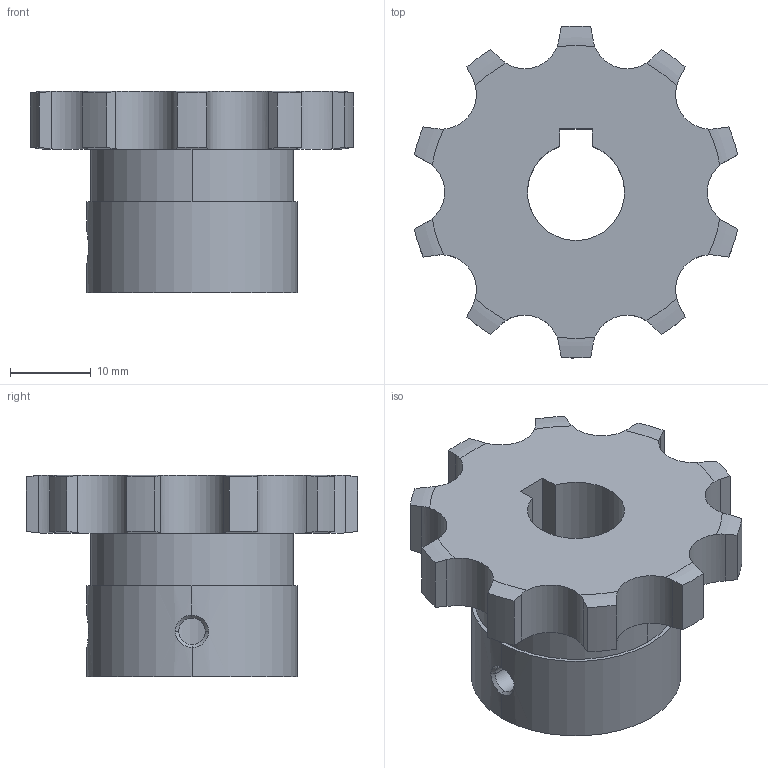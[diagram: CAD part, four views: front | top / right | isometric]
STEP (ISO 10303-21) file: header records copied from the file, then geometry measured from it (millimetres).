
FILE_DESCRIPTION((''),'2;1');
FILE_NAME('510-201-1210_PRT','2021-02-13T',('Brieden'),('Brieden'),'PRO/ENGINEER BY PARAMETRIC TECHNOLOGY CORPORATION, 2010160','PRO/ENGINEER BY PARAMETRIC TECHNOLOGY CORPORATION, 2010160','');
FILE_SCHEMA(('AUTOMOTIVE_DESIGN { 1 0 10303 214 1 1 1 1 }'));
Length unit declared in the file: millimetre
Products named in the file (1): 510-201-1210_PRT
Bounding box: 40.06 x 41.08 x 25 mm (x, y, z)
Volume: 13608.9 mm3; surface area: 5647 mm2
Topology: 1 solids, 1 shells, 82 faces, 231 edges, 152 vertices
Faces by surface type: cylinder 49, torus 20, plane 7, bspline 6
Entity records: 4038 total; most frequent: CARTESIAN_POINT 1278, ORIENTED_EDGE 462, DIRECTION 361, PRESENTATION_STYLE_ASSIGNMENT 232, STYLED_ITEM 232, CURVE_STYLE 231, EDGE_CURVE 231, VERTEX_POINT 152
